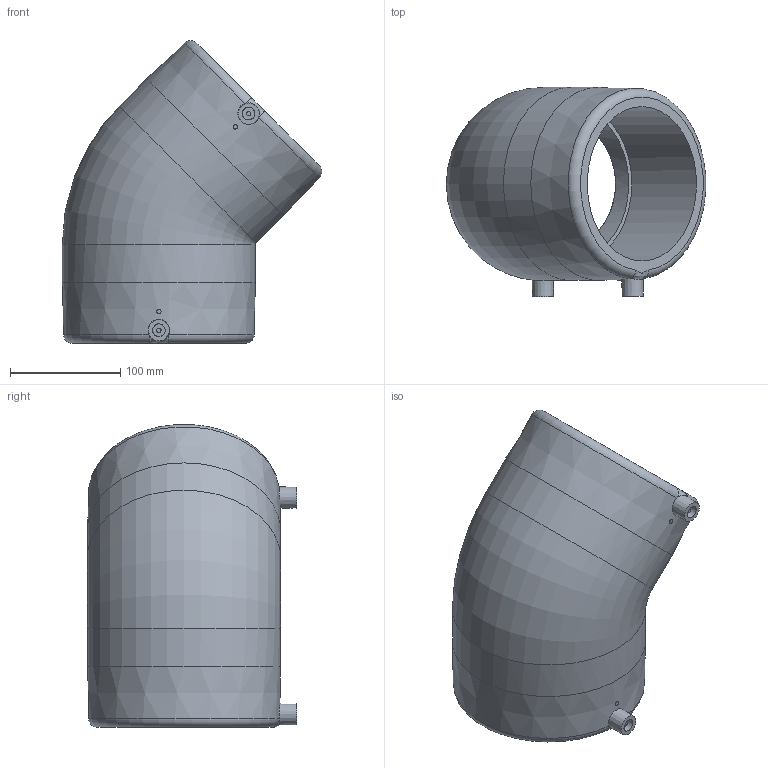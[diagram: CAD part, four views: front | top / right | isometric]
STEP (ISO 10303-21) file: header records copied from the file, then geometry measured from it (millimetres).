
FILE_DESCRIPTION(/* description */ ('Unknown'),/* implementation_level */ '2;1');
FILE_NAME(/* name */ 'GE4P140C',/* time_stamp */ '2020-12-02T09:57:39+01:00',/* author */ ('Unknown'),/* organization */ ('Unknown'),/* preprocessor_version */ 'ST-DEVELOPER v16.7',/* originating_system */ 'Solid Edge',/* authorisation */ 'Unknown');
FILE_SCHEMA (('AUTOMOTIVE_DESIGN {1 0 10303 214 3 1 1}'));
Length unit declared in the file: millimetre
Products named in the file (1): GE4P140C
Bounding box: 235.04 x 189.5 x 274.54 mm (x, y, z)
Volume: 2276710.2 mm3; surface area: 264509.5 mm2
Topology: 1 solids, 1 shells, 34 faces, 78 edges, 54 vertices
Faces by surface type: cylinder 12, plane 10, cone 6, torus 4, bspline 2
Full cylindrical faces by diameter (mm): 4 x4, 11.5 x2, 132 x2, 140 x2, 175 x2
Entity records: 986 total; most frequent: CARTESIAN_POINT 360, DIRECTION 124, ORIENTED_EDGE 90, AXIS2_PLACEMENT_3D 62, EDGE_LOOP 61, FACE_BOUND 61, EDGE_CURVE 45, VERTEX_POINT 38
